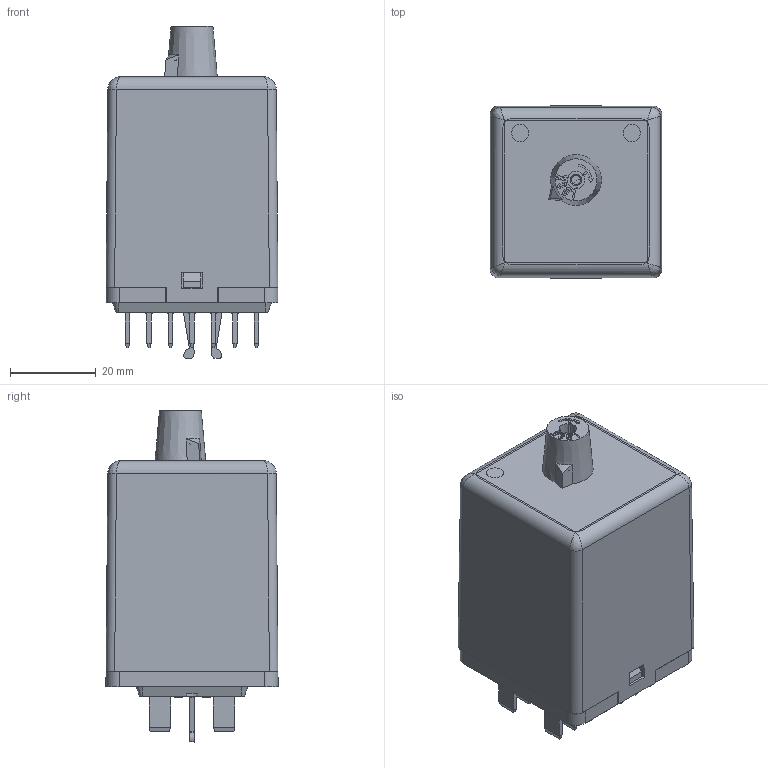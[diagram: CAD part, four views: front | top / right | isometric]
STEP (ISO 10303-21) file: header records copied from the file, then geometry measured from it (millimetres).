
FILE_DESCRIPTION((''),'2;1');
FILE_NAME('I:\TI\Bibliotheek\Inventor\Relais\TDB2\TDB2 variable.stp','2011-03-08T10:53:10',('oey'),(''),'Autodesk Inventor 2011','Autodesk Inventor 2011','');
FILE_SCHEMA(('AUTOMOTIVE_DESIGN { 1 0 10303 214 1 1 1 1 }'));
Length unit declared in the file: millimetre
Products named in the file (1): TDB2 variable
Bounding box: 40 x 40.06 x 77.25 mm (x, y, z)
Volume: 24611.4 mm3; surface area: 29452.9 mm2
Topology: 1 solids, 1 shells, 1582 faces, 4464 edges, 2842 vertices
Faces by surface type: plane 954, cylinder 424, bspline 138, sphere 56, cone 9, torus 1
Full cylindrical faces by diameter (mm): 1.6 x14, 1.7 x1, 2.2 x1, 2.7 x4, 4 x2, 5.4 x1, 6 x1
Entity records: 53547 total; most frequent: CARTESIAN_POINT 11091, ORIENTED_EDGE 8836, DIRECTION 8072, EDGE_CURVE 4418, VECTOR 3082, LINE 3082, VERTEX_POINT 2820, AXIS2_PLACEMENT_3D 2495
